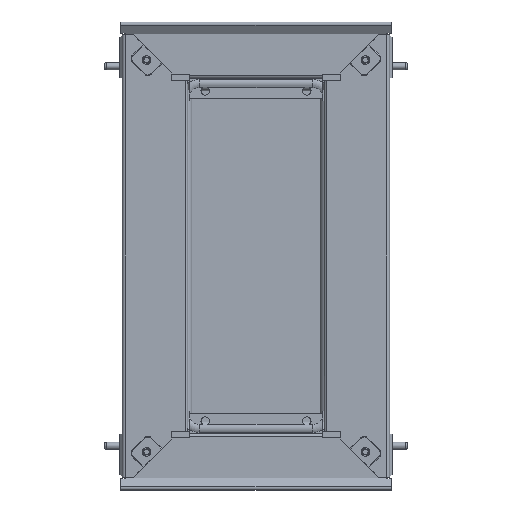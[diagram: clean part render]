
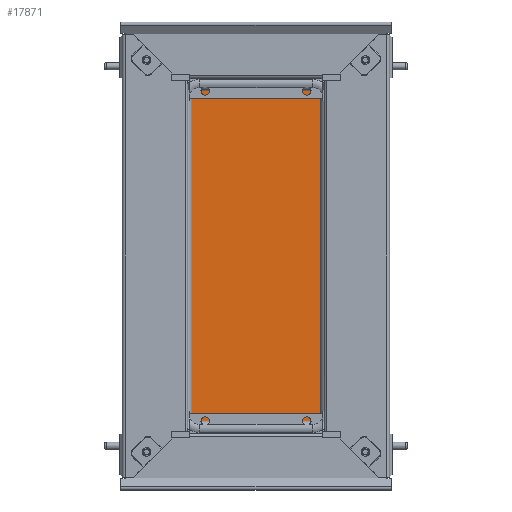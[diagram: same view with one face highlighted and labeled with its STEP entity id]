
A CAD part, front view. The second image highlights one B-rep face of the part: STEP entity #17871.
In plain terms, the highlighted planar face has unit normal (0, -1, 0).
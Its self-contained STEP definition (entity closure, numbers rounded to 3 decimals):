
#4061=DIRECTION('',(0.,0.,1.));
#4062=VECTOR('',#4061,261.);
#4063=CARTESIAN_POINT('',(178.55,39.75,63.));
#4064=LINE('',#4063,#4062);
#4422=CARTESIAN_POINT('',(172.55,39.75,63.));
#4423=DIRECTION('',(0.,1.,0.));
#4424=DIRECTION('',(1.,0.,0.));
#4425=AXIS2_PLACEMENT_3D('',#4422,#4423,#4424);
#4427=DIRECTION('',(1.,0.,0.));
#4428=VECTOR('',#4427,94.);
#4429=CARTESIAN_POINT('',(78.55,39.75,57.));
#4430=LINE('',#4429,#4428);
#4431=CARTESIAN_POINT('',(78.55,39.75,63.));
#4432=DIRECTION('',(0.,1.,0.));
#4433=DIRECTION('',(0.,0.,-1.));
#4434=AXIS2_PLACEMENT_3D('',#4431,#4432,#4433);
#4436=DIRECTION('',(0.,0.,-1.));
#4437=VECTOR('',#4436,261.);
#4438=CARTESIAN_POINT('',(72.55,39.75,324.));
#4439=LINE('',#4438,#4437);
#4440=CARTESIAN_POINT('',(78.55,39.75,324.));
#4441=DIRECTION('',(0.,1.,0.));
#4442=DIRECTION('',(-1.,0.,0.));
#4443=AXIS2_PLACEMENT_3D('',#4440,#4441,#4442);
#4445=DIRECTION('',(-1.,0.,0.));
#4446=VECTOR('',#4445,94.);
#4447=CARTESIAN_POINT('',(172.55,39.75,330.));
#4448=LINE('',#4447,#4446);
#4449=CARTESIAN_POINT('',(172.55,39.75,324.));
#4450=DIRECTION('',(0.,1.,0.));
#4451=DIRECTION('',(0.,0.,1.));
#4452=AXIS2_PLACEMENT_3D('',#4449,#4450,#4451);
#11499=CARTESIAN_POINT('',(172.55,39.75,330.));
#11500=CARTESIAN_POINT('',(178.55,39.75,324.));
#11501=VERTEX_POINT('',#11499);
#11502=VERTEX_POINT('',#11500);
#11503=CARTESIAN_POINT('',(78.55,39.75,330.));
#11504=VERTEX_POINT('',#11503);
#11505=CARTESIAN_POINT('',(72.55,39.75,324.));
#11506=VERTEX_POINT('',#11505);
#11507=CARTESIAN_POINT('',(72.55,39.75,63.));
#11508=VERTEX_POINT('',#11507);
#11509=CARTESIAN_POINT('',(78.55,39.75,57.));
#11510=VERTEX_POINT('',#11509);
#11511=CARTESIAN_POINT('',(172.55,39.75,57.));
#11512=VERTEX_POINT('',#11511);
#11513=CARTESIAN_POINT('',(178.55,39.75,63.));
#11514=VERTEX_POINT('',#11513);
#17851=CARTESIAN_POINT('',(206.05,39.75,44.5));
#17852=DIRECTION('',(0.,1.,0.));
#17853=DIRECTION('',(0.,0.,1.));
#17854=AXIS2_PLACEMENT_3D('',#17851,#17852,#17853);
#17855=PLANE('',#17854);
#17856=ORIENTED_EDGE('',*,*,#17421,.F.);
#17858=ORIENTED_EDGE('',*,*,#17857,.T.);
#17860=ORIENTED_EDGE('',*,*,#17859,.F.);
#17861=ORIENTED_EDGE('',*,*,#17828,.T.);
#17862=ORIENTED_EDGE('',*,*,#16133,.F.);
#17864=ORIENTED_EDGE('',*,*,#17863,.T.);
#17866=ORIENTED_EDGE('',*,*,#17865,.F.);
#17868=ORIENTED_EDGE('',*,*,#17867,.T.);
#17869=EDGE_LOOP('',(#17856,#17858,#17860,#17861,#17862,#17864,#17866,#17868));
#17870=FACE_OUTER_BOUND('',#17869,.F.);
#17871=ADVANCED_FACE('',(#17870),#17855,.F.);
#4426=CIRCLE('',#4425,6.);
#4435=CIRCLE('',#4434,6.);
#4444=CIRCLE('',#4443,6.);
#4453=CIRCLE('',#4452,6.);
#16133=EDGE_CURVE('',#11506,#11508,#4439,.T.);
#17421=EDGE_CURVE('',#11514,#11502,#4064,.T.);
#17828=EDGE_CURVE('',#11510,#11508,#4435,.T.);
#17857=EDGE_CURVE('',#11514,#11512,#4426,.T.);
#17859=EDGE_CURVE('',#11510,#11512,#4430,.T.);
#17863=EDGE_CURVE('',#11506,#11504,#4444,.T.);
#17865=EDGE_CURVE('',#11501,#11504,#4448,.T.);
#17867=EDGE_CURVE('',#11501,#11502,#4453,.T.);
